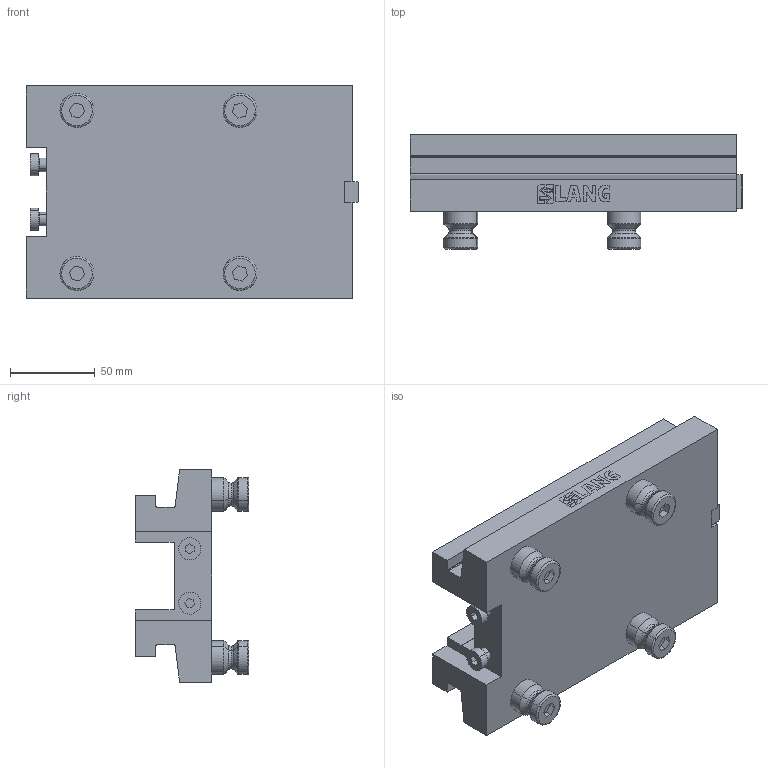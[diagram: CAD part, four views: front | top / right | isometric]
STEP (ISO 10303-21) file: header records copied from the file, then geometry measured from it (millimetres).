
FILE_DESCRIPTION (( 'STEP AP214' ), '1' );
FILE_NAME ('81021.STEP', '2020-10-28T06:39:34', ( '' ), ( '' ), 'SwSTEP 2.0', 'SolidWorks 2019', '' );
FILE_SCHEMA (( 'AUTOMOTIVE_DESIGN' ));
Length unit declared in the file: millimetre
Products named in the file (1): 81021
Bounding box: 195.5 x 67 x 125 mm (x, y, z)
Volume: 731785.8 mm3; surface area: 100484.8 mm2
Topology: 9 solids, 9 shells, 485 faces, 1196 edges, 761 vertices
Faces by surface type: plane 298, cylinder 60, cone 49, bspline 40, torus 36, sphere 2
Entity records: 19951 total; most frequent: CARTESIAN_POINT 3152, ORIENTED_EDGE 2372, DIRECTION 2243, EDGE_CURVE 1186, VECTOR 863, LINE 863, VERTEX_POINT 761, AXIS2_PLACEMENT_3D 690
